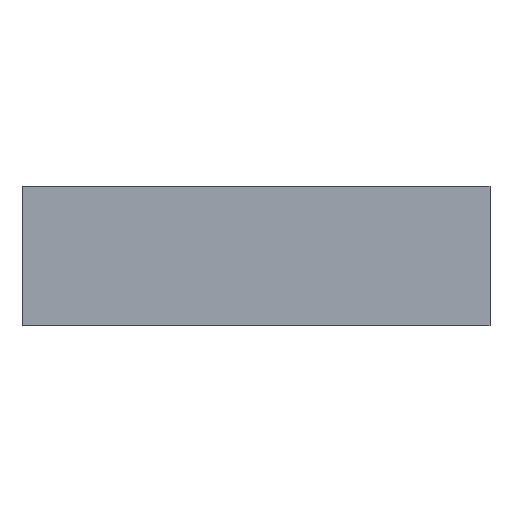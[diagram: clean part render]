
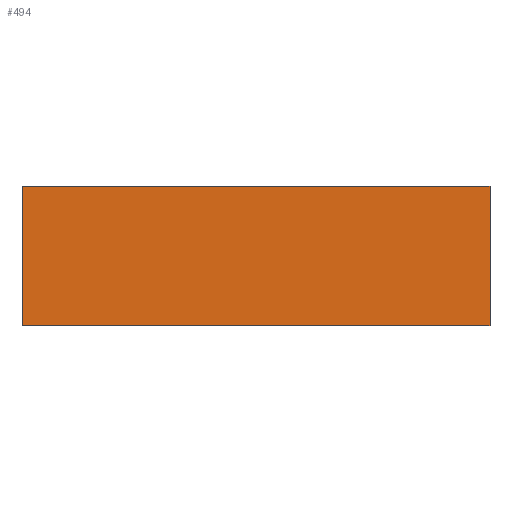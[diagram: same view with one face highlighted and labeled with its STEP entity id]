
A CAD part, front view. The second image highlights one B-rep face of the part: STEP entity #494.
In plain terms, the highlighted planar face has unit normal (0, -1, 0).
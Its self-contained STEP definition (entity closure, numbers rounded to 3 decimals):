
#18 = EDGE_CURVE ( 'NONE', #476, #481, #355, .T. ) ;
#25 = EDGE_CURVE ( 'NONE', #482, #472, #362, .T. ) ;
#48 = CARTESIAN_POINT ( 'NONE',  ( -113.5, -5.5, -17.9 ) ) ;
#51 = DIRECTION ( 'NONE',  ( 0., 0., 1. ) ) ;
#52 = DIRECTION ( 'NONE',  ( 0., 0., 1. ) ) ;
#62 = CARTESIAN_POINT ( 'NONE',  ( 113.5, -5.5, -17.9 ) ) ;
#74 = EDGE_CURVE ( 'NONE', #482, #476, #383, .T. ) ;
#86 = EDGE_CURVE ( 'NONE', #472, #481, #413, .T. ) ;
#104 = AXIS2_PLACEMENT_3D ( 'NONE', #190, #196, #197 ) ;
#143 = CARTESIAN_POINT ( 'NONE',  ( -113.5, -5.5, 49.7 ) ) ;
#144 = DIRECTION ( 'NONE',  ( 1., 0., 0. ) ) ;
#168 = CARTESIAN_POINT ( 'NONE',  ( -113.5, -5.5, 49.7 ) ) ;
#171 = CARTESIAN_POINT ( 'NONE',  ( 113.5, -5.5, -17.9 ) ) ;
#175 = CARTESIAN_POINT ( 'NONE',  ( 113.5, -5.5, 49.7 ) ) ;
#176 = CARTESIAN_POINT ( 'NONE',  ( -113.5, -5.5, -17.9 ) ) ;
#187 = PLANE ( 'NONE',  #104 ) ;
#190 = CARTESIAN_POINT ( 'NONE',  ( -113.5, -5.5, -17.9 ) ) ;
#196 = DIRECTION ( 'NONE',  ( 0., 1., 0. ) ) ;
#197 = DIRECTION ( 'NONE',  ( 0., 0., -1. ) ) ;
#277 = ORIENTED_EDGE ( 'NONE', *, *, #74, .T. ) ;
#278 = ORIENTED_EDGE ( 'NONE', *, *, #25, .F. ) ;
#279 = ORIENTED_EDGE ( 'NONE', *, *, #86, .F. ) ;
#280 = ORIENTED_EDGE ( 'NONE', *, *, #18, .T. ) ;
#355 = LINE ( 'NONE', #62, #356 ) ;
#356 = VECTOR ( 'NONE', #51, 1000. ) ;
#362 = LINE ( 'NONE', #48, #365 ) ;
#365 = VECTOR ( 'NONE', #52, 1000. ) ;
#383 = LINE ( 'NONE', #512, #393 ) ;
#393 = VECTOR ( 'NONE', #515, 1000. ) ;
#413 = LINE ( 'NONE', #143, #414 ) ;
#414 = VECTOR ( 'NONE', #144, 1000. ) ;
#424 = FACE_OUTER_BOUND ( 'NONE', #536, .T. ) ;
#472 = VERTEX_POINT ( 'NONE', #168 ) ;
#476 = VERTEX_POINT ( 'NONE', #171 ) ;
#481 = VERTEX_POINT ( 'NONE', #175 ) ;
#482 = VERTEX_POINT ( 'NONE', #176 ) ;
#494 = ADVANCED_FACE ( 'NONE', ( #424 ), #187, .F. ) ;
#512 = CARTESIAN_POINT ( 'NONE',  ( -113.5, -5.5, -17.9 ) ) ;
#515 = DIRECTION ( 'NONE',  ( 1., 0., 0. ) ) ;
#536 = EDGE_LOOP ( 'NONE', ( #280, #279, #278, #277 ) ) ;
